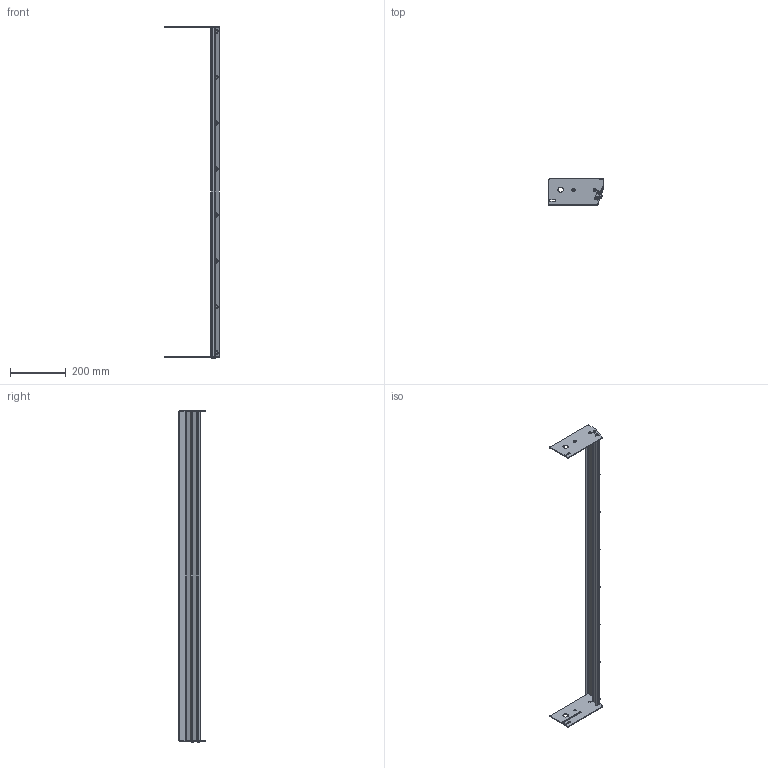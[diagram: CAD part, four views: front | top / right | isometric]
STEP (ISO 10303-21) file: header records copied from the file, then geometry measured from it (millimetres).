
FILE_DESCRIPTION((''),'2;1');
FILE_NAME('351199-46_ASM','2023-03-15T',('jenni.wallner'),(''),'PRO/ENGINEER BY PARAMETRIC TECHNOLOGY CORPORATION, 2012420','PRO/ENGINEER BY PARAMETRIC TECHNOLOGY CORPORATION, 2012420','');
FILE_SCHEMA(('CONFIG_CONTROL_DESIGN'));
Length unit declared in the file: inch
Products named in the file (10): 351201; 9506XXM_950612M; 351203-WW_351203-46; 990603M; 351200_DEFAULT_AS_MACHINED_; 9505XXM_950512M; 351202-WW_351202-46; 605279P; ASM0001_ASM; 351199-46_ASM
Assembly tree (33 placements, depth 3):
  351199-46_ASM
    ASM0001_ASM
      351201
      9506XXM_950612M  x8
      351203-WW_351203-46
      990603M  x8
      351200_DEFAULT_AS_MACHINED_
      9505XXM_950512M  x4
      351202-WW_351202-46
      605279P  x8
Bounding box: 196.11 x 93.08 x 1187.49 mm (x, y, z)
Volume: 574177.9 mm3; surface area: 472037.6 mm2
Topology: 32 solids, 32 shells, 583 faces, 1367 edges, 872 vertices
Faces by surface type: plane 270, cylinder 197, cone 116
Entity records: 8860 total; most frequent: DIRECTION 1618, CARTESIAN_POINT 1602, ORIENTED_EDGE 1376, EDGE_CURVE 688, AXIS2_PLACEMENT_3D 615, VERTEX_POINT 452, VECTOR 388, LINE 388
